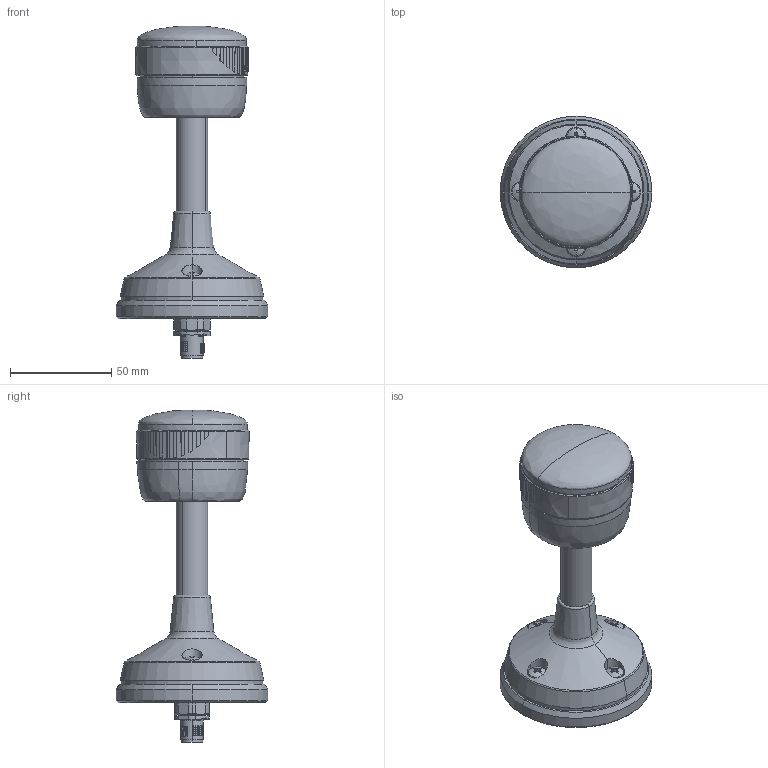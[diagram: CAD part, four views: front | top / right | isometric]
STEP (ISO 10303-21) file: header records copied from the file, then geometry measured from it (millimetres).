
FILE_DESCRIPTION (( 'STEP AP214' ), '1' );
FILE_NAME ('20230214_28250126010.STEP', '2023-02-14T09:06:13', ( '' ), ( '' ), 'SwSTEP 2.0', 'SolidWorks 2021', '' );
FILE_SCHEMA (( 'AUTOMOTIVE_DESIGN' ));
Length unit declared in the file: millimetre
Products named in the file (1): 20230214_28250126010
Bounding box: 75 x 75 x 164.11 mm (x, y, z)
Surface area: 90130 mm2 (no closed solid volume)
Topology: 0 solids, 28 shells, 1466 faces, 3885 edges, 2483 vertices
Faces by surface type: plane 745, bspline 251, cylinder 235, cone 179, torus 44, sphere 12
Entity records: 75268 total; most frequent: CARTESIAN_POINT 24348, ORIENTED_EDGE 7656, DIRECTION 6500, EDGE_CURVE 3837, VERTEX_POINT 2483, AXIS2_PLACEMENT_3D 2229, LINE 2042, VECTOR 2042
